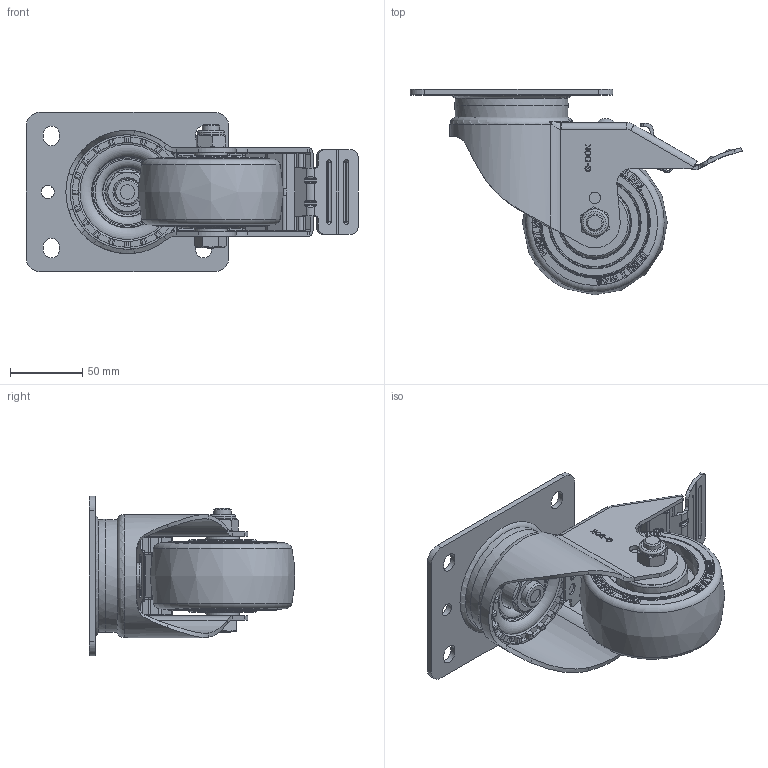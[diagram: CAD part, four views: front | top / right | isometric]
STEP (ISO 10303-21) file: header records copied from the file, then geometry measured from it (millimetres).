
FILE_DESCRIPTION(/* description */ (''),/* implementation_level */ '2;1');
FILE_NAME(/* name */ 'C:\Users\admin\Desktop\업무폴더\일자별 업무\2026\05월\05.15\변환\SPH-100-BSF-TUD&HRD-PEU.ipt.stp',/* time_stamp */ '2026-05-15T13:16:58+09:00',/* author */ ('admin'),/* organization */ ('지덕산업'),/* preprocessor_version */ 'ST-DEVELOPER v18.1',/* originating_system */ 'Autodesk Inventor 2021',/* authorisation */ '');
FILE_SCHEMA (('CONFIG_CONTROL_DESIGN'));
Products named in the file (1): SPH-100-BSF-TUD&HRD-PEU
Bounding box: 229.04 x 141.75 x 110 mm (x, y, z)
Volume: 575673.1 mm3; surface area: 141260 mm2
Topology: 1 solids, 2 shells, 1611 faces, 4357 edges, 2829 vertices
Faces by surface type: plane 732, bspline 467, cylinder 272, cone 91, torus 48, sphere 1
Full cylindrical faces by diameter (mm): 6 x1, 8 x5, 9 x3, 10 x1, 12 x2, 18 x2, 18.5 x1, 31 x1, 31.177 x1, 46.001 x2
Entity records: 57200 total; most frequent: CARTESIAN_POINT 20605, ORIENTED_EDGE 8678, DIRECTION 6006, EDGE_CURVE 4341, VERTEX_POINT 2829, LINE 2138, VECTOR 2138, AXIS2_PLACEMENT_3D 1934
